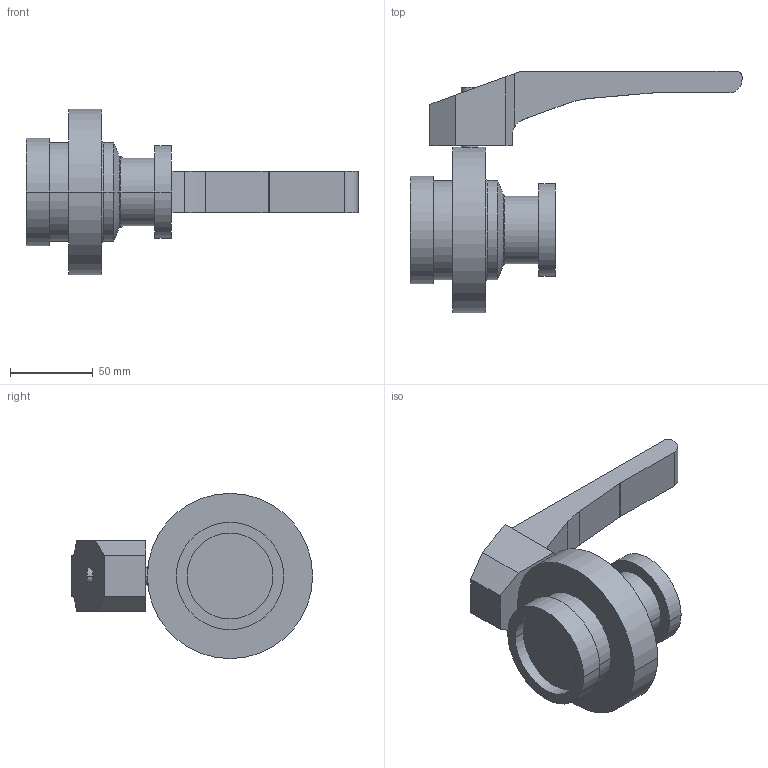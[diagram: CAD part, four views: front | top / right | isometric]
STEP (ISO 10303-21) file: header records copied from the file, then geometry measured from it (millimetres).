
FILE_DESCRIPTION(('OneSpaceDesigner STEP Export'),'2;1');
FILE_NAME('SV1-40-H-1K2G.stp','2011-05-24T12:02:34',(''),(''),'OneSpace Designer STEP processor for AP214 (Solid Model)','OneSpace Modeling 15.00B 25-Jun-2007 (C) CoCreate Software GmbH','');
FILE_SCHEMA(('AUTOMOTIVE_DESIGN { 1 0 10303 214 1 1 1 1 }'));
Length unit declared in the file: millimetre
Products named in the file (3): Handhebel-SV-40-100; SV1-40-H-1K2G-Kern; SV1-40-H-1K2G
Assembly tree (2 placements, depth 2):
  SV1-40-H-1K2G
    SV1-40-H-1K2G-Kern
    Handhebel-SV-40-100
Bounding box: 201 x 146 x 100 mm (x, y, z)
Volume: 429990.2 mm3; surface area: 58413.1 mm2
Topology: 2 solids, 2 shells, 55 faces, 125 edges, 80 vertices
Faces by surface type: plane 26, cylinder 23, torus 4, cone 2
Entity records: 1853 total; most frequent: CARTESIAN_POINT 621, ORIENTED_EDGE 250, DIRECTION 229, EDGE_CURVE 125, AXIS2_PLACEMENT_3D 81, VERTEX_POINT 80, VECTOR 67, LINE 67
